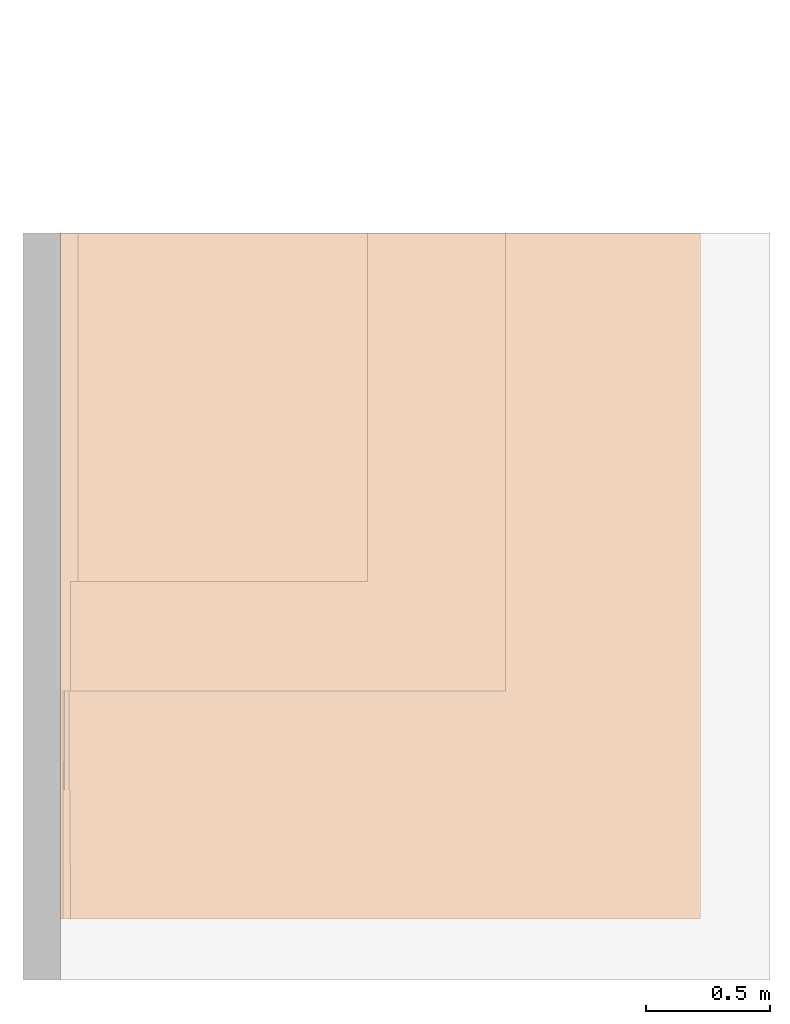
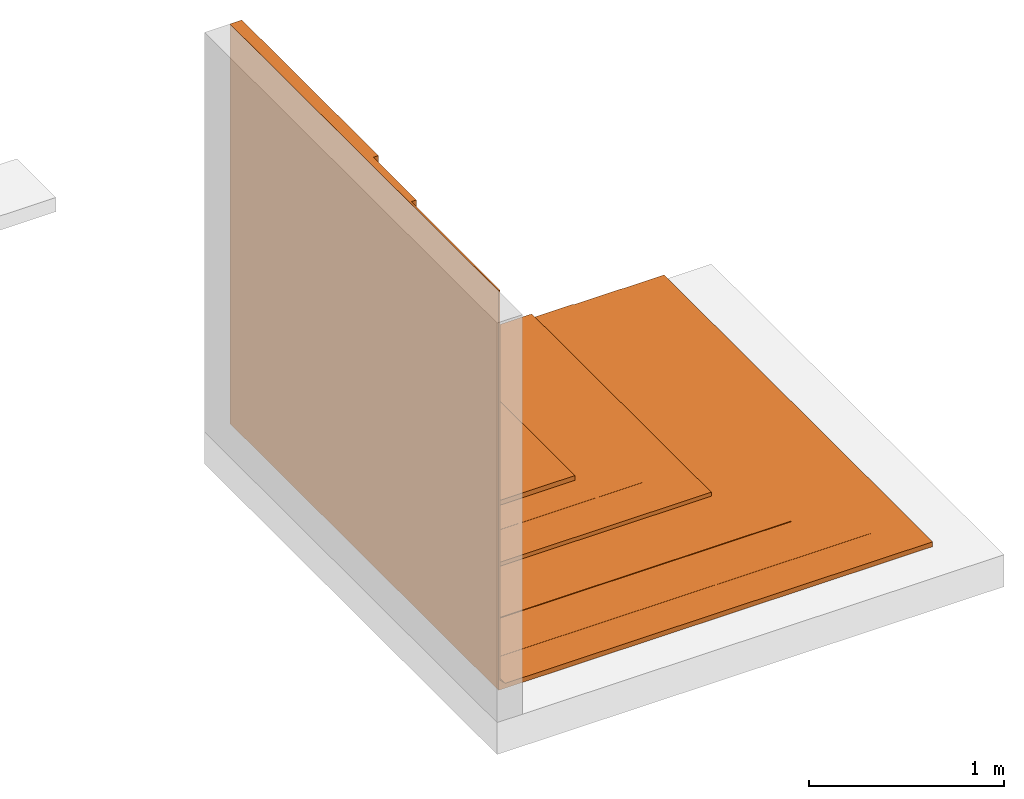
# One storey, part 2 of 2: 1 proxy.
"""IFC2X3 building model written with IfcOpenShell, lengths in metres."""

from ifc_helpers import new_model, entity, si_unit, converted_unit, derived_unit, direction, frame, frame_2d, origin, origin_2d_with_axis, place, context, subcontext, project, spatial, polyline, circle_curve, parameter, trimmed, segment, composite_curve, rectangle, outline, extrude, source, transform, mapped, material, material_list, type_object, type_shapes, element, save


model = new_model("IFC2X3")

# Units and contexts
model_context = context("Model", 3, precision=1e-05, world=origin(), true_north=direction((6.123031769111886e-17, 1.0)))
body_context = subcontext(model_context, "Body", "Model", "MODEL_VIEW")
ifc_project = project(units=[si_unit("LENGTHUNIT", "METRE"), si_unit("AREAUNIT", "SQUARE_METRE"), si_unit("VOLUMEUNIT", "CUBIC_METRE"), converted_unit("PLANEANGLEUNIT", "DEGREE", entity("IfcRatioMeasure", 0.017453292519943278), si_unit("PLANEANGLEUNIT", "RADIAN"), dimensions=[0, 0, 0, 0, 0, 0, 0]), si_unit("MASSUNIT", "GRAM", prefix="KILO"), derived_unit("MASSDENSITYUNIT", [(si_unit("MASSUNIT", "GRAM", prefix="KILO"), 1), (si_unit("LENGTHUNIT", "METRE"), -3)]), derived_unit("IONCONCENTRATIONUNIT", [(si_unit("MASSUNIT", "GRAM", prefix="KILO"), 1), (si_unit("LENGTHUNIT", "METRE"), -3)]), derived_unit("MOMENTOFINERTIAUNIT", [(si_unit("LENGTHUNIT", "METRE"), 4)]), si_unit("TIMEUNIT", "SECOND"), si_unit("FREQUENCYUNIT", "HERTZ"), si_unit("THERMODYNAMICTEMPERATUREUNIT", "DEGREE_CELSIUS"), derived_unit("THERMALTRANSMITTANCEUNIT", [(si_unit("MASSUNIT", "GRAM", prefix="KILO"), 1), (si_unit("THERMODYNAMICTEMPERATUREUNIT", "KELVIN"), -1), (si_unit("TIMEUNIT", "SECOND"), -3)]), derived_unit("THERMALCONDUCTANCEUNIT", [(si_unit("MASSUNIT", "GRAM", prefix="KILO"), 1), (si_unit("THERMODYNAMICTEMPERATUREUNIT", "KELVIN"), -1), (si_unit("TIMEUNIT", "SECOND"), -3), (si_unit("LENGTHUNIT", "METRE"), 1)]), derived_unit("VOLUMETRICFLOWRATEUNIT", [(si_unit("LENGTHUNIT", "METRE"), 3), (si_unit("TIMEUNIT", "SECOND"), -1)]), derived_unit("MASSFLOWRATEUNIT", [(si_unit("MASSUNIT", "GRAM", prefix="KILO"), 1), (si_unit("TIMEUNIT", "SECOND"), -1)]), derived_unit("ROTATIONALFREQUENCYUNIT", [(si_unit("TIMEUNIT", "SECOND"), -1)]), si_unit("ELECTRICCURRENTUNIT", "AMPERE"), si_unit("ELECTRICVOLTAGEUNIT", "VOLT"), si_unit("POWERUNIT", "WATT"), si_unit("FORCEUNIT", "NEWTON", prefix="KILO"), si_unit("ILLUMINANCEUNIT", "LUX"), si_unit("LUMINOUSFLUXUNIT", "LUMEN"), si_unit("LUMINOUSINTENSITYUNIT", "CANDELA"), derived_unit("USERDEFINED", [(si_unit("MASSUNIT", "GRAM", prefix="KILO"), -1), (si_unit("LENGTHUNIT", "METRE"), -2), (si_unit("TIMEUNIT", "SECOND"), 3), (si_unit("LUMINOUSFLUXUNIT", "LUMEN"), 1)]), derived_unit("USERDEFINED", [(si_unit("MASSUNIT", "GRAM", prefix="KILO"), 1), (si_unit("TIMEUNIT", "SECOND"), -3), (si_unit("LENGTHUNIT", "METRE"), 3), (si_unit("ELECTRICCURRENTUNIT", "AMPERE"), -2)]), derived_unit("SOUNDPOWERUNIT", [(si_unit("MASSUNIT", "GRAM", prefix="KILO"), 1), (si_unit("TIMEUNIT", "SECOND"), -3), (si_unit("LENGTHUNIT", "METRE"), 2)]), derived_unit("SOUNDPRESSUREUNIT", [(si_unit("MASSUNIT", "GRAM", prefix="KILO"), 1), (si_unit("LENGTHUNIT", "METRE"), -1), (si_unit("TIMEUNIT", "SECOND"), -2)]), derived_unit("LINEARVELOCITYUNIT", [(si_unit("LENGTHUNIT", "METRE"), 1), (si_unit("TIMEUNIT", "SECOND"), -1)]), si_unit("PRESSUREUNIT", "PASCAL"), derived_unit("USERDEFINED", [(si_unit("MASSUNIT", "GRAM", prefix="KILO"), 1), (si_unit("LENGTHUNIT", "METRE"), -2), (si_unit("TIMEUNIT", "SECOND"), -2)]), derived_unit("LINEARFORCEUNIT", [(si_unit("MASSUNIT", "GRAM", prefix="KILO"), 1), (si_unit("TIMEUNIT", "SECOND"), -2)]), derived_unit("PLANARFORCEUNIT", [(si_unit("MASSUNIT", "GRAM", prefix="KILO"), 1), (si_unit("LENGTHUNIT", "METRE"), -1), (si_unit("TIMEUNIT", "SECOND"), -2)]), derived_unit("SPECIFICHEATCAPACITYUNIT", [(si_unit("THERMODYNAMICTEMPERATUREUNIT", "KELVIN"), -1), (si_unit("LENGTHUNIT", "METRE"), 2), (si_unit("TIMEUNIT", "SECOND"), -2)]), derived_unit("HEATINGVALUEUNIT", [(si_unit("LENGTHUNIT", "METRE"), 2), (si_unit("TIMEUNIT", "SECOND"), -2)]), derived_unit("VAPORPERMEABILITYUNIT", [(si_unit("LENGTHUNIT", "METRE"), -1), (si_unit("TIMEUNIT", "SECOND"), 1)]), derived_unit("DYNAMICVISCOSITYUNIT", [(si_unit("MASSUNIT", "GRAM", prefix="KILO"), 1), (si_unit("TIMEUNIT", "SECOND"), -1), (si_unit("LENGTHUNIT", "METRE"), -1)]), derived_unit("THERMALEXPANSIONCOEFFICIENTUNIT", [(si_unit("THERMODYNAMICTEMPERATUREUNIT", "KELVIN"), -1)]), derived_unit("MODULUSOFELASTICITYUNIT", [(si_unit("MASSUNIT", "GRAM", prefix="KILO"), 1), (si_unit("LENGTHUNIT", "METRE"), -1), (si_unit("TIMEUNIT", "SECOND"), -2)]), derived_unit("ISOTHERMALMOISTURECAPACITYUNIT", [(si_unit("LENGTHUNIT", "METRE"), 3), (si_unit("MASSUNIT", "GRAM", prefix="KILO"), -1)]), derived_unit("MOISTUREDIFFUSIVITYUNIT", [(si_unit("TIMEUNIT", "SECOND"), -1), (si_unit("LENGTHUNIT", "METRE"), 2)])], contexts=[model_context])

# Site, building, storey
site_placement = place(None, origin())
site = spatial("IfcSite", under=ifc_project, at=site_placement, Name="Default", CompositionType="ELEMENT")
building_placement = place(site_placement, origin())
building = spatial("IfcBuilding", under=site, at=building_placement, CompositionType="ELEMENT")
storey_placement = place(building_placement, frame((0.0, 0.0, -0.0025237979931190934)))
storey = spatial("IfcBuildingStorey", under=building, at=storey_placement, Name="ARQ Térreo", CompositionType="ELEMENT", Elevation=-0.0025237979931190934)

# Proxy
ifc_material_1 = material(Name="#XPS")
ifc_material_2 = material(Name="#Vitkote Elastic")
ifc_material_3 = material(Name="#argamassa")
ifc_material_4 = material(Name="#Primer Adeflex")
ifc_material_5 = material(Name="# Torodin 3mm - TIPO III - Classe A")
ifc_material_6 = material(Name="#proteção mecânica")
ifc_material_7 = material(Name="#Tela Plástica")
ifc_material_8 = material(Name="#camada separadora")
ifc_material_9 = material(Name="#selante")
ifc_material_list = material_list([ifc_material_1, ifc_material_2, ifc_material_3, ifc_material_4, ifc_material_5, ifc_material_6, ifc_material_7, ifc_material_8, ifc_material_9])
building_element_proxy_type = type_object("IfcBuildingElementProxyType", Name="IMPER:IMPER", PredefinedType="NOTDEFINED", material=ifc_material_list)
shared_shape = source(origin(), body_context, "Body", "SweptSolid", [
    extrude(outline(composite_curve([segment(trimmed(circle_curve(frame_2d((-0.3364290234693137, 0.5044489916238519), x_axis=(1.0, 0.0)), 0.024999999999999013), [parameter(92.59659785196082)], [parameter(178.27647583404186)], True, "PARAMETER"), True, "CONTINUOUS"), segment(polyline([(-0.36141771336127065, 0.5052009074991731), (-0.3604177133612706, 0.5052009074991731)]), True, "CONTINUOUS"), segment(polyline([(-0.3604177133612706, 0.5052009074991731), (-0.3604177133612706, 0.3990091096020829)]), True, "CONTINUOUS"), segment(polyline([(-0.3604177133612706, 0.3990091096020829), (-0.36542902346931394, 0.39399779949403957)]), True, "CONTINUOUS"), segment(polyline([(-0.36542902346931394, 0.3939977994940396), (-0.36542902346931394, -1.9355510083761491)]), True, "CONTINUOUS"), segment(polyline([(-0.36542902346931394, -1.9355510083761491), (-0.3354177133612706, -1.9355510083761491)]), True, "CONTINUOUS"), segment(polyline([(-0.3354177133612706, -1.9355510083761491), (-0.3354177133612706, 0.5044233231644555)]), True, "CONTINUOUS"), segment(polyline([(-0.3354177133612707, 0.5044233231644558), (1.41075411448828, 0.5044233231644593)]), True, "CONTINUOUS"), segment(polyline([(1.41075411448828, 0.5044233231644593), (1.41075411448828, 0.5294233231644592)]), True, "CONTINUOUS"), segment(polyline([(1.41075411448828, 0.5294233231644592), (-0.33756161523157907, 0.5294233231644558)]), True, "CONTINUOUS")], self_intersect=False)), frame((0.024458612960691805, -1.6941090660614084, 0.5619251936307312), z_axis=(0.0, 1.0, 0.0), x_axis=(1.0, 0.0, 0.0)), (0.0, 0.0, 1.0), 1.839979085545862),
    extrude(outline(polyline([(-0.35294673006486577, 0.34979692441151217), (-0.4277427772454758, 0.4245929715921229), (-0.4284498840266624, 0.4238858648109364), (-0.3533609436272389, 0.3487969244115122), (-0.3462738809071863, 0.3487969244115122), (1.3009658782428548, -1.2984428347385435), (1.3016729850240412, -1.297735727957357), (-0.3465747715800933, 0.35051202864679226), (-0.3472898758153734, 0.34979692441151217), (-0.35294673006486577, 0.34979692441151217)])), frame((-0.339186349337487, -1.9751610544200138, 0.6594166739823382), z_axis=(0.0, -1.0, 0.0), x_axis=(-0.7071067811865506, 0.0, 0.7071067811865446)), (0.0, 0.0, -1.0), 2.1210310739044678),
    extrude(rectangle(XDim=2.7543580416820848, YDim=0.009999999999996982, at=frame_2d((0.0, 3.382710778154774e-17), x_axis=(1.0, 0.0))), frame((-0.3469704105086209, -1.2313090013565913, -0.0025237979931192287), z_axis=(0.0, 0.0, 1.0), x_axis=(0.0, -1.0, 0.0)), (0.0, 0.0, 1.0), 2.4999999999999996),
    extrude(outline(composite_curve([segment(polyline([(-1.0, -0.006000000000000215), (1.5300000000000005, -0.006000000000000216)]), True, "CONTINUOUS"), segment(polyline([(1.5300000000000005, -0.006000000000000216), (1.5300000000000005, 0.023999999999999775)]), True, "CONTINUOUS"), segment(polyline([(1.5300000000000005, 0.023999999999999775), (-1.0300000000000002, 0.023999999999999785)]), True, "CONTINUOUS"), segment(polyline([(-1.0300000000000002, 0.023999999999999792), (-1.0300000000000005, -0.03599999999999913)]), True, "CONTINUOUS"), segment(trimmed(circle_curve(frame_2d((-1.0, -0.03599999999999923), x_axis=(1.0, 0.0)), 0.029999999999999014), [parameter(90.0000000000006)], [parameter(179.99999999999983)], True, "PARAMETER"), False, "CONTINUOUS")], self_intersect=False)), frame((0.688029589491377, -2.6084880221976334, 0.021476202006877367), z_axis=(0.0, 1.0, 0.0), x_axis=(1.0, 0.0, 0.0)), (0.0, 0.0, 1.0), 2.7543580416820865),
    extrude(outline(composite_curve([segment(polyline([(-0.5865890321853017, -0.013221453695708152), (-0.5865890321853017, 0.09661406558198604)]), True, "CONTINUOUS"), segment(polyline([(-0.5865890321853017, 0.09661406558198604), (-0.5876003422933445, 0.09661406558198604)]), True, "CONTINUOUS"), segment(polyline([(-0.5876003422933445, 0.09661406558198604), (-0.5876003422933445, -0.012411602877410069)]), True, "CONTINUOUS"), segment(trimmed(circle_curve(frame_2d((-0.5576003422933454, -0.012411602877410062), x_axis=(1.0, 0.0)), 0.029999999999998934), [parameter(179.99999999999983)], [parameter(270.00000000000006)], True, "PARAMETER"), True, "CONTINUOUS"), segment(polyline([(-0.5576003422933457, -0.04241160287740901), (1.732399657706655, -0.042411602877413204)]), True, "CONTINUOUS"), segment(polyline([(1.732399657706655, -0.042411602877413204), (1.732399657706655, -0.04138593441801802)]), True, "CONTINUOUS"), segment(polyline([(1.732399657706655, -0.04138593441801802), (-0.5588202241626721, -0.04138593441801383)]), True, "CONTINUOUS"), segment(trimmed(circle_curve(frame_2d((-0.5576003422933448, -0.012411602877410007), x_axis=(1.0, 0.0)), 0.028999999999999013), [parameter(181.60024369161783)], [parameter(267.5891478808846)], True, "PARAMETER"), False, "CONTINUOUS")], self_intersect=False)), frame((0.245629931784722, -2.3859840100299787, 0.06988780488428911), z_axis=(0.0, -1.0, 0.0), x_axis=(1.0, 0.0, 0.0)), (0.0, 0.0, -1.0), 2.5318540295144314),
    extrude(outline(composite_curve([segment(polyline([(-0.5087002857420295, -0.013825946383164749), (-0.5087002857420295, 0.09195163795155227)]), True, "CONTINUOUS"), segment(polyline([(-0.5087002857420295, 0.09195163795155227), (-0.5127002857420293, 0.09595163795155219)]), True, "CONTINUOUS"), segment(polyline([(-0.5127002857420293, 0.09595163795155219), (-0.5127002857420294, -0.013883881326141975)]), True, "CONTINUOUS"), segment(trimmed(circle_curve(frame_2d((-0.4837115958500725, -0.01307403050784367), x_axis=(1.0, 0.0)), 0.028999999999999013), [parameter(181.60024369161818)], [parameter(267.5891478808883)], True, "PARAMETER"), True, "CONTINUOUS"), segment(polyline([(-0.4849314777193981, -0.04204836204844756), (1.506288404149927, -0.042048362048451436)]), True, "CONTINUOUS"), segment(polyline([(1.506288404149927, -0.042048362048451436), (1.506288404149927, -0.0380483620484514)]), True, "CONTINUOUS"), segment(polyline([(1.506288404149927, -0.0380483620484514), (-0.48484418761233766, -0.03804836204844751)]), True, "CONTINUOUS"), segment(trimmed(circle_curve(frame_2d((-0.4837115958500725, -0.01307403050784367), x_axis=(1.0, 0.0)), 0.024999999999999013), [parameter(181.72352416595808)], [parameter(267.40340214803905)], True, "PARAMETER"), False, "CONTINUOUS")], self_intersect=False)), frame((0.1717411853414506, -2.091049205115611, 0.07055023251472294), z_axis=(0.0, -1.0, 0.0), x_axis=(1.0, 0.0, 0.0)), (0.0, 0.0, -1.0), 2.2369192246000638),
    extrude(outline(polyline([(-0.5558609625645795, -0.2858827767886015), (1.8831133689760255, -0.2858827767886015), (1.8831133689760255, -0.25588277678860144), (-0.5258609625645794, -0.25588277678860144), (-0.5384609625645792, -0.2558827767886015), (-0.5384609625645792, -0.23735681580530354), (-0.5258609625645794, -0.23735681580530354), (-0.5258609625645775, 0.9070637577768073), (-0.5558609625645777, 0.9070637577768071), (-0.5558609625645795, -0.2858827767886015)])), frame((-0.025076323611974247, -1.2541299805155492, 0.6143628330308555), z_axis=(0.0, 1.0, 0.0), x_axis=(0.0, 0.0, 1.0)), (0.0, 0.0, 1.0), 1.3999999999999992),
    extrude(rectangle(XDim=1.8399790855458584, YDim=0.0009999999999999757, at=origin_2d_with_axis()), frame((-0.2959591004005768, -0.7741195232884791, 0.08850187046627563), z_axis=(0.0, 0.0, 1.0), x_axis=(0.0, -1.0, 0.0)), (0.0, 0.0, 1.0), 0.4),
    extrude(rectangle(XDim=1.4812644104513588, YDim=1.589332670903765, at=origin_2d_with_axis()), frame((0.42967310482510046, -0.6487963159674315, 0.0575018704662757), z_axis=(0.0, 0.0, 1.0), x_axis=(-1.0, 0.0, 0.0)), (0.0, 0.0, 1.0), 0.0009999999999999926),
    extrude(rectangle(XDim=0.01852596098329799, YDim=1.4000000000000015, at=origin_2d_with_axis()), frame((-0.27169611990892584, -0.5541299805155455, 0.07590187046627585), z_axis=(0.0, 0.0, 1.0), x_axis=(-1.0, 0.0, 0.0)), (0.0, 0.0, 1.0), 0.012599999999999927),
])
type_shapes(building_element_proxy_type, [shared_shape])
proxy_placement = place(storey_placement, frame((0.0, 0.0, 0.0025237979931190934)))
element("IfcBuildingElementProxy", 1, at=proxy_placement, inside=storey, type_object=building_element_proxy_type, material=ifc_material_list, Name="IMPER:IMPER:IMPER : IMPER:IMPER", ObjectType="IMPER:IMPER:IMPER : IMPER:IMPER", context=body_context, shape_type="MappedRepresentation", body=[
    mapped(shared_shape, transform((0.0, 0.0, 0.0), scale=1.0)),
])

save(model, "model.ifc")
